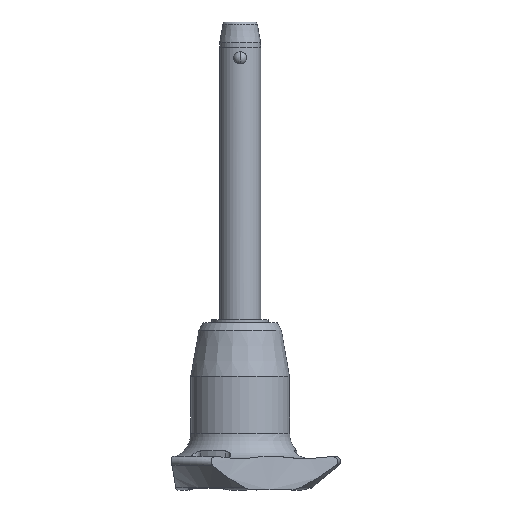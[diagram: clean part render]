
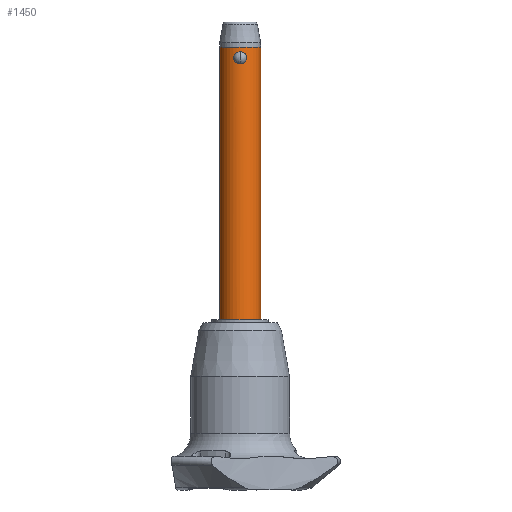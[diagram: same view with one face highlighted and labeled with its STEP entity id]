
A CAD part, front view. The second image highlights one B-rep face of the part: STEP entity #1450.
In plain terms, the highlighted cylindrical face has radius 4 mm (diameter 8 mm), a partial arc.
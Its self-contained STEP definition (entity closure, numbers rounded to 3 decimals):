
#7 = CARTESIAN_POINT ( 'NONE',  ( 0., -4., 0. ) ) ;
#19 = CARTESIAN_POINT ( 'NONE',  ( 0.627, -3.953, 0.143 ) ) ;
#21 = VERTEX_POINT ( 'NONE', #1128 ) ;
#74 = CARTESIAN_POINT ( 'NONE',  ( 0.326, -3.99, 0.029 ) ) ;
#101 = CARTESIAN_POINT ( 'NONE',  ( -1.092, -3.848, 1.818 ) ) ;
#122 = CARTESIAN_POINT ( 'NONE',  ( -1.133, -3.836, 1.747 ) ) ;
#182 = CARTESIAN_POINT ( 'NONE',  ( -1.266, -3.794, 1.12 ) ) ;
#200 = CARTESIAN_POINT ( 'NONE',  ( -1.005, -3.874, 0.447 ) ) ;
#273 = CARTESIAN_POINT ( 'NONE',  ( 0.326, -3.99, 2.371 ) ) ;
#315 = CARTESIAN_POINT ( 'NONE',  ( -0.762, -3.927, 2.166 ) ) ;
#316 = VERTEX_POINT ( 'NONE', #2794 ) ;
#352 = CARTESIAN_POINT ( 'NONE',  ( -0.325, -3.99, 2.371 ) ) ;
#354 = EDGE_LOOP ( 'NONE', ( #2205, #1233, #1411, #2693 ) ) ;
#362 = EDGE_LOOP ( 'NONE', ( #563, #2666 ) ) ;
#378 = CARTESIAN_POINT ( 'NONE',  ( -1.224, -3.808, 0.879 ) ) ;
#393 = CARTESIAN_POINT ( 'NONE',  ( -0.628, -3.953, 0.143 ) ) ;
#396 = DIRECTION ( 'NONE',  ( 0., 0., 1. ) ) ;
#477 = CARTESIAN_POINT ( 'NONE',  ( 0.999, -3.874, 0.452 ) ) ;
#563 = ORIENTED_EDGE ( 'NONE', *, *, #2535, .F. ) ;
#608 = DIRECTION ( 'NONE',  ( 1., 0., 0. ) ) ;
#647 = CYLINDRICAL_SURFACE ( 'NONE', #1860, 4. ) ;
#657 = EDGE_CURVE ( 'NONE', #2499, #316, #2027, .T. ) ;
#668 = B_SPLINE_CURVE_WITH_KNOTS ( 'NONE', 3,
 ( #1405, #1458, #352, #1678, #2277, #315, #1439, #2065, #1185, #101, #122, #1877, #1659, #182, #1278, #378, #2557, #859, #200, #2142, #393, #1513, #2160, #1042 ),
 .UNSPECIFIED., .F., .F.,
 ( 4, 2, 2, 2, 2, 2, 2, 2, 2, 2, 2, 4 ),
 ( 0., 0., 0.001, 0.001, 0.001, 0.001, 0.002, 0.002, 0.002, 0.003, 0.003, 0.004 ),
 .UNSPECIFIED. ) ;
#680 = CARTESIAN_POINT ( 'NONE',  ( 0.162, -4., 0. ) ) ;
#711 = VERTEX_POINT ( 'NONE', #7 ) ;
#713 = VECTOR ( 'NONE', #772, 1000. ) ;
#714 = CIRCLE ( 'NONE', #1265, 4. ) ;
#734 = CARTESIAN_POINT ( 'NONE',  ( 1.101, -3.846, 1.82 ) ) ;
#765 = DIRECTION ( 'NONE',  ( 1., 0., 0. ) ) ;
#772 = DIRECTION ( 'NONE',  ( 0., 0., 1. ) ) ;
#829 = CARTESIAN_POINT ( 'NONE',  ( 0., 0., 3.28 ) ) ;
#835 = CARTESIAN_POINT ( 'NONE',  ( 0., 0., -50. ) ) ;
#848 = DIRECTION ( 'NONE',  ( 0., 0., 1. ) ) ;
#859 = CARTESIAN_POINT ( 'NONE',  ( -1.101, -3.846, 0.579 ) ) ;
#887 = CARTESIAN_POINT ( 'NONE',  ( 1.258, -3.797, 1.361 ) ) ;
#943 = CARTESIAN_POINT ( 'NONE',  ( 1.266, -3.794, 1.035 ) ) ;
#950 = B_SPLINE_CURVE_WITH_KNOTS ( 'NONE', 3,
 ( #1362, #680, #74, #19, #2679, #1133, #477, #2037, #1598, #2245, #943, #1827, #887, #2689, #1572, #734, #2009, #1158, #2461, #273, #1145, #1348 ),
 .UNSPECIFIED., .F., .F.,
 ( 4, 2, 2, 2, 2, 2, 2, 2, 2, 2, 4 ),
 ( 0.004, 0.004, 0.005, 0.005, 0.005, 0.006, 0.006, 0.006, 0.007, 0.007, 0.008 ),
 .UNSPECIFIED. ) ;
#1027 = EDGE_CURVE ( 'NONE', #711, #21, #950, .T. ) ;
#1042 = CARTESIAN_POINT ( 'NONE',  ( 0., -4., 0. ) ) ;
#1044 = FACE_BOUND ( 'NONE', #362, .T. ) ;
#1128 = CARTESIAN_POINT ( 'NONE',  ( 0., -4., 2.4 ) ) ;
#1133 = CARTESIAN_POINT ( 'NONE',  ( 0.944, -3.887, 0.391 ) ) ;
#1145 = CARTESIAN_POINT ( 'NONE',  ( 0.164, -4., 2.4 ) ) ;
#1158 = CARTESIAN_POINT ( 'NONE',  ( 0.769, -3.927, 2.171 ) ) ;
#1185 = CARTESIAN_POINT ( 'NONE',  ( -0.998, -3.874, 1.949 ) ) ;
#1233 = ORIENTED_EDGE ( 'NONE', *, *, #2396, .F. ) ;
#1265 = AXIS2_PLACEMENT_3D ( 'NONE', #2680, #2722, #765 ) ;
#1273 = DIRECTION ( 'NONE',  ( 0., 0., 1. ) ) ;
#1278 = CARTESIAN_POINT ( 'NONE',  ( -1.258, -3.797, 1.038 ) ) ;
#1348 = CARTESIAN_POINT ( 'NONE',  ( 0., -4., 2.4 ) ) ;
#1362 = CARTESIAN_POINT ( 'NONE',  ( 0., -4., 0. ) ) ;
#1405 = CARTESIAN_POINT ( 'NONE',  ( 0., -4., 2.4 ) ) ;
#1411 = ORIENTED_EDGE ( 'NONE', *, *, #1524, .T. ) ;
#1439 = CARTESIAN_POINT ( 'NONE',  ( -0.827, -3.914, 2.117 ) ) ;
#1450 = ADVANCED_FACE ( 'NONE', ( #2821, #1044 ), #647, .T. ) ;
#1458 = CARTESIAN_POINT ( 'NONE',  ( -0.164, -4., 2.4 ) ) ;
#1486 = LINE ( 'NONE', #2354, #1583 ) ;
#1513 = CARTESIAN_POINT ( 'NONE',  ( -0.326, -3.99, 0.029 ) ) ;
#1524 = EDGE_CURVE ( 'NONE', #1862, #316, #1486, .T. ) ;
#1572 = CARTESIAN_POINT ( 'NONE',  ( 1.199, -3.816, 1.599 ) ) ;
#1583 = VECTOR ( 'NONE', #396, 1000. ) ;
#1598 = CARTESIAN_POINT ( 'NONE',  ( 1.132, -3.836, 0.651 ) ) ;
#1659 = CARTESIAN_POINT ( 'NONE',  ( -1.266, -3.794, 1.364 ) ) ;
#1678 = CARTESIAN_POINT ( 'NONE',  ( -0.553, -3.962, 2.285 ) ) ;
#1701 = LINE ( 'NONE', #2345, #713 ) ;
#1827 = CARTESIAN_POINT ( 'NONE',  ( 1.266, -3.794, 1.281 ) ) ;
#1860 = AXIS2_PLACEMENT_3D ( 'NONE', #835, #848, #608 ) ;
#1862 = VERTEX_POINT ( 'NONE', #2442 ) ;
#1877 = CARTESIAN_POINT ( 'NONE',  ( -1.231, -3.806, 1.527 ) ) ;
#1897 = DIRECTION ( 'NONE',  ( 1., 0., 0. ) ) ;
#1906 = CARTESIAN_POINT ( 'NONE',  ( -4., 0., 3.28 ) ) ;
#1987 = EDGE_CURVE ( 'NONE', #2514, #2499, #1701, .T. ) ;
#2009 = CARTESIAN_POINT ( 'NONE',  ( 1.005, -3.874, 1.953 ) ) ;
#2027 = CIRCLE ( 'NONE', #2802, 4. ) ;
#2037 = CARTESIAN_POINT ( 'NONE',  ( 1.092, -3.848, 0.582 ) ) ;
#2065 = CARTESIAN_POINT ( 'NONE',  ( -0.945, -3.887, 2.008 ) ) ;
#2142 = CARTESIAN_POINT ( 'NONE',  ( -0.768, -3.927, 0.228 ) ) ;
#2160 = CARTESIAN_POINT ( 'NONE',  ( -0.162, -4., 0. ) ) ;
#2205 = ORIENTED_EDGE ( 'NONE', *, *, #1987, .F. ) ;
#2245 = CARTESIAN_POINT ( 'NONE',  ( 1.231, -3.806, 0.873 ) ) ;
#2277 = CARTESIAN_POINT ( 'NONE',  ( -0.625, -3.951, 2.25 ) ) ;
#2345 = CARTESIAN_POINT ( 'NONE',  ( -4., 0., -50. ) ) ;
#2354 = CARTESIAN_POINT ( 'NONE',  ( 4., 0., -50. ) ) ;
#2396 = EDGE_CURVE ( 'NONE', #1862, #2514, #714, .T. ) ;
#2442 = CARTESIAN_POINT ( 'NONE',  ( 4., 0., -50. ) ) ;
#2461 = CARTESIAN_POINT ( 'NONE',  ( 0.629, -3.953, 2.256 ) ) ;
#2499 = VERTEX_POINT ( 'NONE', #1906 ) ;
#2514 = VERTEX_POINT ( 'NONE', #2772 ) ;
#2535 = EDGE_CURVE ( 'NONE', #21, #711, #668, .T. ) ;
#2557 = CARTESIAN_POINT ( 'NONE',  ( -1.199, -3.816, 0.802 ) ) ;
#2666 = ORIENTED_EDGE ( 'NONE', *, *, #1027, .F. ) ;
#2679 = CARTESIAN_POINT ( 'NONE',  ( 0.768, -3.927, 0.228 ) ) ;
#2680 = CARTESIAN_POINT ( 'NONE',  ( 0., 0., -50. ) ) ;
#2689 = CARTESIAN_POINT ( 'NONE',  ( 1.224, -3.808, 1.52 ) ) ;
#2693 = ORIENTED_EDGE ( 'NONE', *, *, #657, .F. ) ;
#2722 = DIRECTION ( 'NONE',  ( 0., 0., -1. ) ) ;
#2772 = CARTESIAN_POINT ( 'NONE',  ( -4., 0., -50. ) ) ;
#2794 = CARTESIAN_POINT ( 'NONE',  ( 4., 0., 3.28 ) ) ;
#2802 = AXIS2_PLACEMENT_3D ( 'NONE', #829, #1273, #1897 ) ;
#2821 = FACE_OUTER_BOUND ( 'NONE', #354, .T. ) ;
